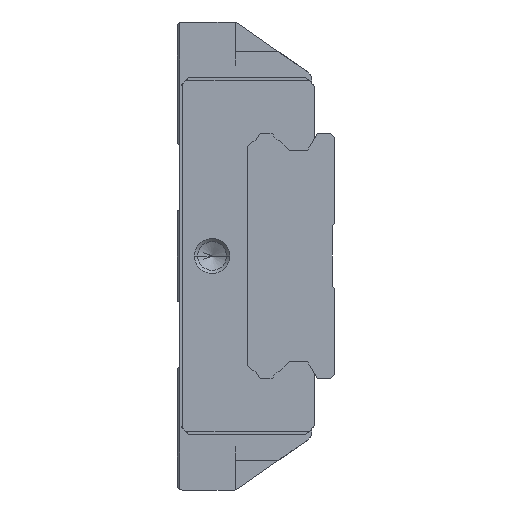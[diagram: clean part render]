
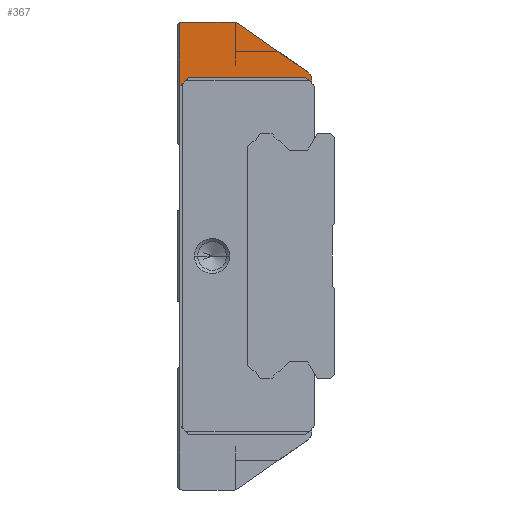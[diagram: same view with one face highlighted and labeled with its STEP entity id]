
A CAD part, left-side view. The second image highlights one B-rep face of the part: STEP entity #367.
In plain terms, the highlighted planar face has unit normal (-1, 0, 0).
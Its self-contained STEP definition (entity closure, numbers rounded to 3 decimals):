
#367 = ADVANCED_FACE( '', ( #1082 ), #1083, .F. );
#1082 = FACE_OUTER_BOUND( '', #1926, .T. );
#1083 = PLANE( '', #1927 );
#1926 = EDGE_LOOP( '', ( #4110, #4111, #4112, #4113, #4114, #4115, #4116, #4117, #4118, #4119 ) );
#1927 = AXIS2_PLACEMENT_3D( '', #4120, #4121, #4122 );
#4110 = ORIENTED_EDGE( '', *, *, #5772, .T. );
#4111 = ORIENTED_EDGE( '', *, *, #5777, .T. );
#4112 = ORIENTED_EDGE( '', *, *, #5778, .T. );
#4113 = ORIENTED_EDGE( '', *, *, #5779, .T. );
#4114 = ORIENTED_EDGE( '', *, *, #5780, .F. );
#4115 = ORIENTED_EDGE( '', *, *, #5781, .F. );
#4116 = ORIENTED_EDGE( '', *, *, #5782, .F. );
#4117 = ORIENTED_EDGE( '', *, *, #5783, .F. );
#4118 = ORIENTED_EDGE( '', *, *, #5784, .F. );
#4119 = ORIENTED_EDGE( '', *, *, #5785, .F. );
#4120 = CARTESIAN_POINT( '', ( 451.7, 3.5, 0. ) );
#4121 = DIRECTION( '', ( 1., 0., 0. ) );
#4122 = DIRECTION( '', ( 0., 0., -1. ) );
#5772 = EDGE_CURVE( '', #7142, #7140, #7143, .T. );
#5777 = EDGE_CURVE( '', #7140, #7149, #7150, .T. );
#5778 = EDGE_CURVE( '', #7149, #7151, #7152, .T. );
#5779 = EDGE_CURVE( '', #7151, #7153, #7154, .T. );
#5780 = EDGE_CURVE( '', #7155, #7153, #7156, .T. );
#5781 = EDGE_CURVE( '', #7157, #7155, #7158, .T. );
#5782 = EDGE_CURVE( '', #7159, #7157, #7160, .T. );
#5783 = EDGE_CURVE( '', #7161, #7159, #7162, .T. );
#5784 = EDGE_CURVE( '', #7163, #7161, #7164, .T. );
#5785 = EDGE_CURVE( '', #7142, #7163, #7165, .T. );
#7140 = VERTEX_POINT( '', #8982 );
#7142 = VERTEX_POINT( '', #8985 );
#7143 = LINE( '', #8986, #8987 );
#7149 = VERTEX_POINT( '', #8995 );
#7150 = LINE( '', #8996, #8997 );
#7151 = VERTEX_POINT( '', #8998 );
#7152 = LINE( '', #8999, #9000 );
#7153 = VERTEX_POINT( '', #9001 );
#7154 = LINE( '', #9002, #9003 );
#7155 = VERTEX_POINT( '', #9004 );
#7156 = LINE( '', #9005, #9006 );
#7157 = VERTEX_POINT( '', #9007 );
#7158 = CIRCLE( '', #9008, 2. );
#7159 = VERTEX_POINT( '', #9009 );
#7160 = LINE( '', #9010, #9011 );
#7161 = VERTEX_POINT( '', #9012 );
#7162 = CIRCLE( '', #9013, 1. );
#7163 = VERTEX_POINT( '', #9014 );
#7164 = LINE( '', #9015, #9016 );
#7165 = CIRCLE( '', #9017, 1. );
#8982 = CARTESIAN_POINT( '', ( 451.7, 26.5, 29. ) );
#8985 = CARTESIAN_POINT( '', ( 451.7, 26.5, 39.91 ) );
#8986 = CARTESIAN_POINT( '', ( 451.7, 26.5, 40. ) );
#8987 = VECTOR( '', #11082, 1. );
#8995 = CARTESIAN_POINT( '', ( 451.7, 25., 30.5 ) );
#8996 = CARTESIAN_POINT( '', ( 451.7, 27.25, 28.25 ) );
#8997 = VECTOR( '', #11091, 1. );
#8998 = CARTESIAN_POINT( '', ( 451.7, 5., 30.5 ) );
#8999 = CARTESIAN_POINT( '', ( 451.7, 4.25, 30.5 ) );
#9000 = VECTOR( '', #11092, 1. );
#9001 = CARTESIAN_POINT( '', ( 451.7, 4., 29.5 ) );
#9002 = CARTESIAN_POINT( '', ( 451.7, -3.75, 21.75 ) );
#9003 = VECTOR( '', #11093, 1. );
#9004 = CARTESIAN_POINT( '', ( 451.7, 4., 30.483 ) );
#9005 = CARTESIAN_POINT( '', ( 451.7, 4., 30.483 ) );
#9006 = VECTOR( '', #11094, 1. );
#9007 = CARTESIAN_POINT( '', ( 451.7, 4.753, 31.497 ) );
#9008 = AXIS2_PLACEMENT_3D( '', #11095, #11096, #11097 );
#9009 = CARTESIAN_POINT( '', ( 451.7, 16.637, 39.819 ) );
#9010 = CARTESIAN_POINT( '', ( 451.7, 16.637, 39.819 ) );
#9011 = VECTOR( '', #11098, 1. );
#9012 = CARTESIAN_POINT( '', ( 451.7, 17.211, 40. ) );
#9013 = AXIS2_PLACEMENT_3D( '', #11099, #11100, #11101 );
#9014 = CARTESIAN_POINT( '', ( 451.7, 26.086, 40. ) );
#9015 = CARTESIAN_POINT( '', ( 451.7, 26.086, 40. ) );
#9016 = VECTOR( '', #11102, 1. );
#9017 = AXIS2_PLACEMENT_3D( '', #11103, #11104, #11105 );
#11082 = DIRECTION( '', ( 0., 0., -1. ) );
#11091 = DIRECTION( '', ( 0., -0.707, 0.707 ) );
#11092 = DIRECTION( '', ( 0., -1., 0. ) );
#11093 = DIRECTION( '', ( 0., -0.707, -0.707 ) );
#11094 = DIRECTION( '', ( 0., 0., -1. ) );
#11095 = CARTESIAN_POINT( '', ( 451.7, 5.9, 29.859 ) );
#11096 = DIRECTION( '', ( 1., 0., 0. ) );
#11097 = DIRECTION( '', ( 0., -0.574, 0.819 ) );
#11098 = DIRECTION( '', ( 0., -0.819, -0.574 ) );
#11099 = CARTESIAN_POINT( '', ( 451.7, 17.211, 39. ) );
#11100 = DIRECTION( '', ( 1., 0., 0. ) );
#11101 = DIRECTION( '', ( 0., 0., 1. ) );
#11102 = DIRECTION( '', ( 0., -1., 0. ) );
#11103 = CARTESIAN_POINT( '', ( 451.7, 26.086, 39. ) );
#11104 = DIRECTION( '', ( 1., 0., 0. ) );
#11105 = DIRECTION( '', ( 0., 0.707, 0.707 ) );
